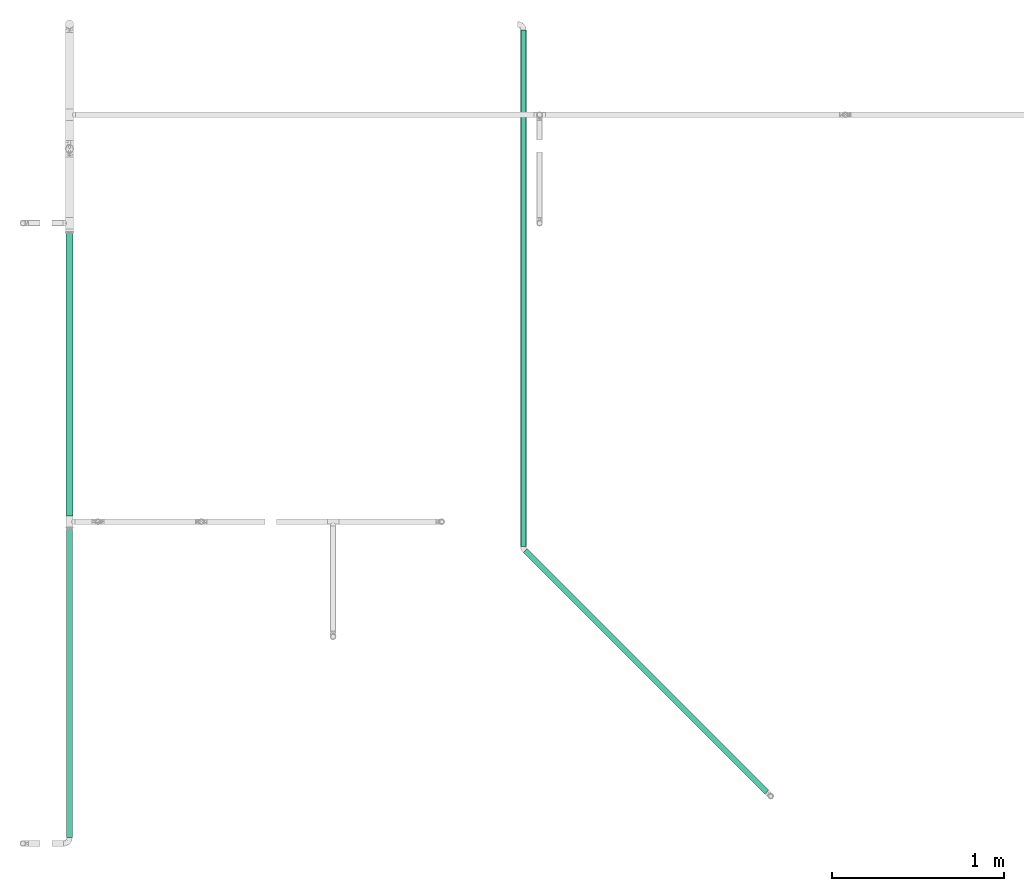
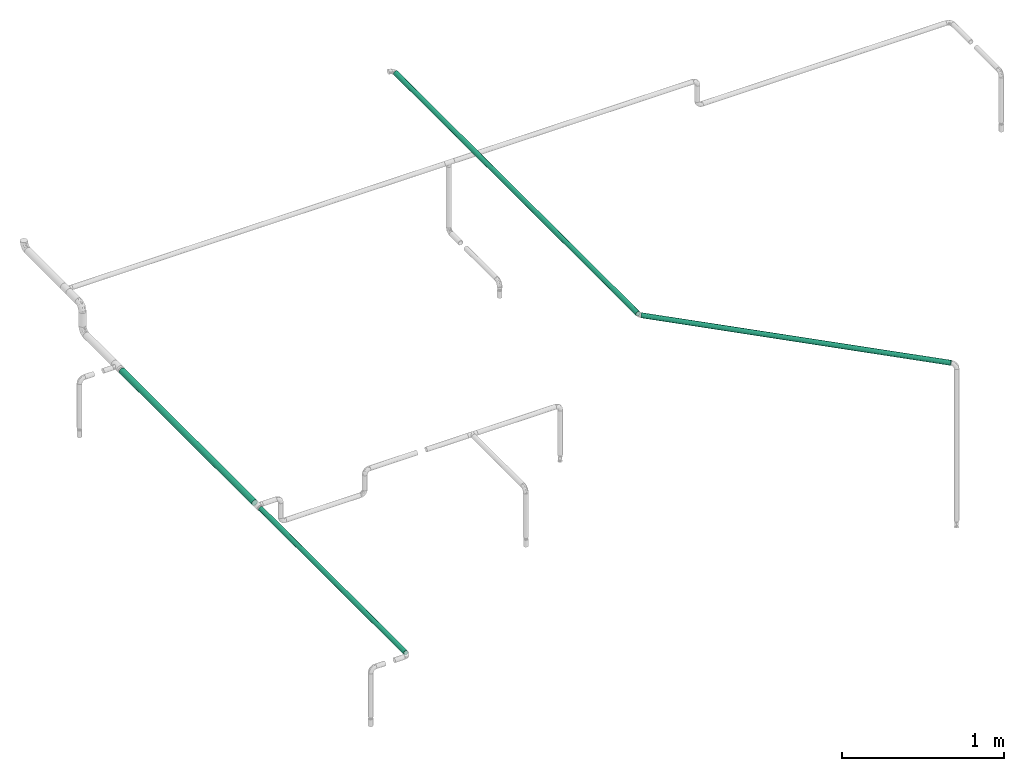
# One storey, part 1 of 17: 4 flow segments.
"""IFC2X3 building model written with IfcOpenShell, lengths in millimetres."""

from ifc_helpers import new_model, entity, si_unit, converted_unit, derived_unit, direction, frame, origin_with_axes, origin_2d_with_axis, place, context, subcontext, project, spatial, hollow_circle, extrude, source, transform, mapped, type_object, element, save


model = new_model("IFC2X3")

# Units and contexts
model_context = context("Model", 3, precision=0.01, world=frame((0.0, 4.29681676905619e-09, 0.0)), true_north=direction((4.01073788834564e-13, 1.0)))
plan_context = context("Plan", 3, precision=0.01, world=frame((0.0, 4.29681676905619e-09, 0.0)), true_north=direction((4.01073788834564e-13, 1.0)))
body_context = subcontext(model_context, "Body", "Model", "MODEL_VIEW")
ifc_project = project(units=[converted_unit("PLANEANGLEUNIT", "DEGREE", entity("IfcPositiveLengthMeasure", 0.0174532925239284), si_unit("PLANEANGLEUNIT", "RADIAN"), dimensions=[0, 0, 0, 0, 0, 0, 0]), si_unit("AREAUNIT", "SQUARE_METRE"), si_unit("LENGTHUNIT", "METRE", prefix="MILLI"), si_unit("MASSUNIT", "GRAM", prefix="KILO"), si_unit("POWERUNIT", "WATT"), si_unit("PRESSUREUNIT", "PASCAL", prefix="KILO"), si_unit("FORCEUNIT", "NEWTON", prefix="KILO"), si_unit("ELECTRICVOLTAGEUNIT", "VOLT"), si_unit("ELECTRICCURRENTUNIT", "AMPERE"), si_unit("THERMODYNAMICTEMPERATUREUNIT", "DEGREE_CELSIUS"), si_unit("TIMEUNIT", "SECOND"), si_unit("VOLUMEUNIT", "CUBIC_METRE"), derived_unit("LINEARVELOCITYUNIT", [(si_unit("LENGTHUNIT", "METRE"), 1), (si_unit("TIMEUNIT", "SECOND"), -1)]), derived_unit("VOLUMETRICFLOWRATEUNIT", [(si_unit("VOLUMEUNIT", "CUBIC_METRE"), 1), (si_unit("TIMEUNIT", "SECOND"), -1)]), derived_unit("THERMALTRANSMITTANCEUNIT", [(si_unit("POWERUNIT", "WATT"), 1), (si_unit("THERMODYNAMICTEMPERATUREUNIT", "KELVIN"), -1), (si_unit("AREAUNIT", "SQUARE_METRE"), -1)]), derived_unit("SOUNDPRESSUREUNIT", [(si_unit("PRESSUREUNIT", "PASCAL"), 1)])], contexts=[model_context, plan_context])

# Site, building, storey
site_placement = place(None, frame((0.0, -4.29681676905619e-09, 0.0), z_axis=(0.0, 0.0, 1.0), x_axis=(1.0, 0.0, 0.0)))
site = spatial("IfcSite", under=ifc_project, at=site_placement, CompositionType="ELEMENT")
building_placement = place(site_placement, frame((0.0, 4.29681676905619e-09, 0.0), z_axis=(0.0, 0.0, 1.0), x_axis=(1.0, 0.0, 0.0)))
building = spatial("IfcBuilding", under=site, at=building_placement, Name="mc-building", CompositionType="ELEMENT")
storey_placement = place(building_placement, frame((0.0, 0.0, 204000.0), z_axis=(0.0, 0.0, 1.0), x_axis=(1.0, 0.0, 0.0)))
storey = spatial("IfcBuildingStorey", under=building, at=storey_placement, Name="Nivå D", CompositionType="ELEMENT", Elevation=204000.0)

# Flow segments
pipe_segment_type = type_object("IfcPipeSegmentType", Name="Stålrør normaltykke", PredefinedType="RIGIDSEGMENT")
shared_shape_1 = source(origin_with_axes(), body_context, "Body", "SweptSolid", [
    extrude(hollow_circle(Radius=16.9, WallThickness=2.0, at=origin_2d_with_axis()), frame((0.0, 0.0, 0.0), z_axis=(1.0, 0.0, 0.0), x_axis=(0.0, 1.0, 0.0)), (0.0, 0.0, 1.0), 1791.3),
])
flow_segment_1_placement = place(storey_placement, frame((596244.66498, 402275.13152, 2780.0), z_axis=(0.0, 0.0, 1.0), x_axis=(0.0, -1.0, 0.0)))
element("IfcFlowSegment", 1, at=flow_segment_1_placement, inside=storey, type_object=pipe_segment_type, Name="Stålrør normaltykke", context=body_context, shape_type="MappedRepresentation", body=[
    mapped(shared_shape_1, transform((0.0, 0.0, 0.0), scale=1.0)),
])
shared_shape_2 = source(origin_with_axes(), body_context, "Body", "SweptSolid", [
    extrude(hollow_circle(Radius=16.9, WallThickness=2.0, at=origin_2d_with_axis()), frame((0.0, 0.0, 0.0), z_axis=(1.0, 0.0, 0.0), x_axis=(0.0, 1.0, 0.0)), (0.0, 0.0, 1.0), 2996.3),
])
flow_segment_2_placement = place(storey_placement, frame((598878.66879, 405170.84073, 3390.0), z_axis=(0.0, 0.0, 1.0), x_axis=(0.0, -1.0, 0.0)))
element("IfcFlowSegment", 2, at=flow_segment_2_placement, inside=storey, type_object=pipe_segment_type, Name="Stålrør normaltykke", context=body_context, shape_type="MappedRepresentation", body=[
    mapped(shared_shape_2, transform((0.0, 0.0, 0.0), scale=1.0)),
])
shared_shape_3 = source(origin_with_axes(), body_context, "Body", "SweptSolid", [
    extrude(hollow_circle(Radius=16.9, WallThickness=2.0, at=origin_2d_with_axis()), frame((0.0, 0.0, 0.0), z_axis=(1.0, 0.0, 0.0), x_axis=(0.0, 1.0, 0.0)), (0.0, 0.0, 1.0), 1982.2),
])
flow_segment_3_placement = place(storey_placement, frame((600290.1643, 400749.01948, 3390.0), z_axis=(0.0, 0.0, 1.0), x_axis=(-0.707106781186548, 0.707106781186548, 0.0)))
element("IfcFlowSegment", 3, at=flow_segment_3_placement, inside=storey, type_object=pipe_segment_type, Name="Stålrør normaltykke", context=body_context, shape_type="MappedRepresentation", body=[
    mapped(shared_shape_3, transform((0.0, 0.0, 0.0), scale=1.0)),
])
shared_shape_4 = source(origin_with_axes(), body_context, "Body", "SweptSolid", [
    extrude(hollow_circle(Radius=21.2, WallThickness=2.0, at=origin_2d_with_axis()), frame((0.0, 0.0, 0.0), z_axis=(1.0, 0.0, 0.0), x_axis=(0.0, 1.0, 0.0)), (0.0, 0.0, 1.0), 1640.1),
])
flow_segment_4_placement = place(storey_placement, frame((596244.66498, 402351.33152, 2780.0), z_axis=(0.0, 0.0, 1.0), x_axis=(0.0, 1.0, 0.0)))
element("IfcFlowSegment", 4, at=flow_segment_4_placement, inside=storey, type_object=pipe_segment_type, Name="Stålrør normaltykke", context=body_context, shape_type="MappedRepresentation", body=[
    mapped(shared_shape_4, transform((0.0, 0.0, 0.0), scale=1.0)),
])

save(model, "model.ifc")
